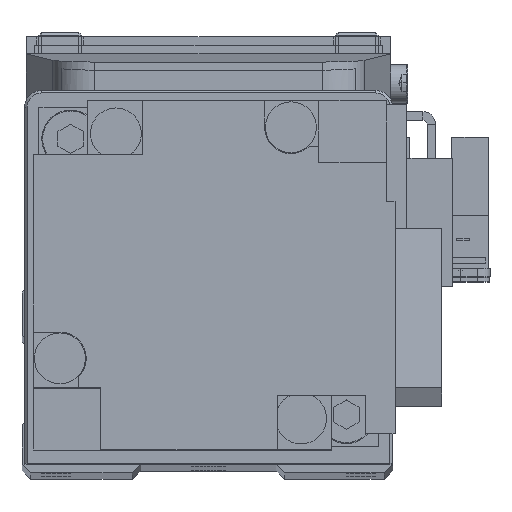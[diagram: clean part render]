
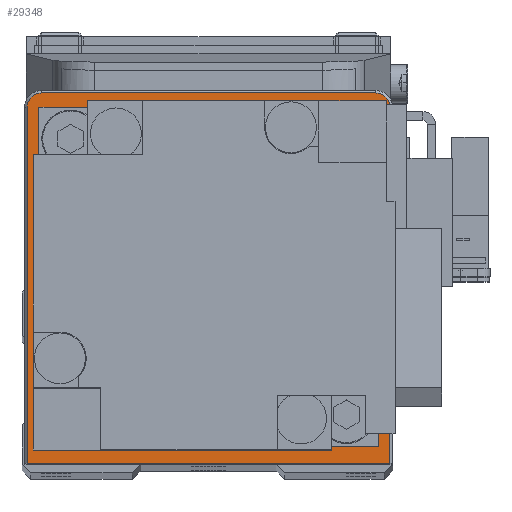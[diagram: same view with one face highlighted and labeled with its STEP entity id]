
A CAD part, top view. The second image highlights one B-rep face of the part: STEP entity #29348.
In plain terms, the highlighted planar face has unit normal (0, 0, 1).
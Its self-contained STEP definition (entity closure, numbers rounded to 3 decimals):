
#148 = VERTEX_POINT ( 'NONE', #9223 ) ;
#255 = VECTOR ( 'NONE', #3710, 1000. ) ;
#563 = CIRCLE ( 'NONE', #24793, 1.7 ) ;
#1321 = EDGE_LOOP ( 'NONE', ( #21762, #30137 ) ) ;
#1433 = CARTESIAN_POINT ( 'NONE',  ( 0., 0., 26.5 ) ) ;
#1461 = DIRECTION ( 'NONE',  ( 0., 1., 0. ) ) ;
#1993 = VERTEX_POINT ( 'NONE', #9020 ) ;
#2002 = EDGE_CURVE ( 'NONE', #1993, #32707, #19705, .T. ) ;
#2079 = VECTOR ( 'NONE', #32815, 1000. ) ;
#3516 = CARTESIAN_POINT ( 'NONE',  ( 0., 0., 26.5 ) ) ;
#3529 = LINE ( 'NONE', #11800, #255 ) ;
#3710 = DIRECTION ( 'NONE',  ( 0., -1., 0. ) ) ;
#4025 = FACE_BOUND ( 'NONE', #1321, .T. ) ;
#4201 = EDGE_CURVE ( 'NONE', #28987, #1993, #29430, .T. ) ;
#4208 = DIRECTION ( 'NONE',  ( 1., 0., 0. ) ) ;
#5451 = DIRECTION ( 'NONE',  ( 0., 0., 1. ) ) ;
#5535 = ORIENTED_EDGE ( 'NONE', *, *, #26526, .T. ) ;
#5963 = VECTOR ( 'NONE', #4208, 1000. ) ;
#6818 = CARTESIAN_POINT ( 'NONE',  ( 21.4, 20., 26.5 ) ) ;
#7863 = DIRECTION ( 'NONE',  ( 1., 0., 0. ) ) ;
#8377 = CARTESIAN_POINT ( 'NONE',  ( -19.7, 20., 26.5 ) ) ;
#8857 = DIRECTION ( 'NONE',  ( 0., 0., 1. ) ) ;
#9020 = CARTESIAN_POINT ( 'NONE',  ( 19.7, 21.7, 26.5 ) ) ;
#9223 = CARTESIAN_POINT ( 'NONE',  ( 10., 0., 26.5 ) ) ;
#9736 = CARTESIAN_POINT ( 'NONE',  ( 21.4, -22., 26.5 ) ) ;
#10444 = DIRECTION ( 'NONE',  ( 0., 0., 1. ) ) ;
#11703 = CARTESIAN_POINT ( 'NONE',  ( -10., 0., 26.5 ) ) ;
#11770 = EDGE_CURVE ( 'NONE', #14107, #148, #29761, .T. ) ;
#11800 = CARTESIAN_POINT ( 'NONE',  ( -21.4, -22., 26.5 ) ) ;
#12058 = EDGE_LOOP ( 'NONE', ( #22269, #19663, #24106, #23087, #12922, #5535 ) ) ;
#12922 = ORIENTED_EDGE ( 'NONE', *, *, #18949, .T. ) ;
#13119 = CARTESIAN_POINT ( 'NONE',  ( -21.4, -22., 26.5 ) ) ;
#13786 = CARTESIAN_POINT ( 'NONE',  ( -19.7, 21.7, 26.5 ) ) ;
#14107 = VERTEX_POINT ( 'NONE', #11703 ) ;
#16110 = EDGE_CURVE ( 'NONE', #148, #14107, #25585, .T. ) ;
#16460 = DIRECTION ( 'NONE',  ( 1., 0., 0. ) ) ;
#17127 = FACE_OUTER_BOUND ( 'NONE', #12058, .T. ) ;
#17293 = DIRECTION ( 'NONE',  ( 1., 0., 0. ) ) ;
#17484 = AXIS2_PLACEMENT_3D ( 'NONE', #3516, #32824, #17293 ) ;
#18210 = AXIS2_PLACEMENT_3D ( 'NONE', #1433, #8857, #27788 ) ;
#18949 = EDGE_CURVE ( 'NONE', #32707, #23461, #563, .T. ) ;
#19200 = DIRECTION ( 'NONE',  ( 0., 0., 1. ) ) ;
#19663 = ORIENTED_EDGE ( 'NONE', *, *, #28034, .T. ) ;
#19705 = LINE ( 'NONE', #21938, #2079 ) ;
#21762 = ORIENTED_EDGE ( 'NONE', *, *, #11770, .F. ) ;
#21799 = CARTESIAN_POINT ( 'NONE',  ( 19.7, 20., 26.5 ) ) ;
#21938 = CARTESIAN_POINT ( 'NONE',  ( -19.7, 21.7, 26.5 ) ) ;
#22269 = ORIENTED_EDGE ( 'NONE', *, *, #30652, .T. ) ;
#22312 = LINE ( 'NONE', #25060, #23996 ) ;
#23087 = ORIENTED_EDGE ( 'NONE', *, *, #2002, .T. ) ;
#23461 = VERTEX_POINT ( 'NONE', #28282 ) ;
#23996 = VECTOR ( 'NONE', #1461, 1000. ) ;
#24106 = ORIENTED_EDGE ( 'NONE', *, *, #4201, .T. ) ;
#24538 = LINE ( 'NONE', #27446, #5963 ) ;
#24793 = AXIS2_PLACEMENT_3D ( 'NONE', #8377, #19200, #16460 ) ;
#25060 = CARTESIAN_POINT ( 'NONE',  ( 21.4, 20., 26.5 ) ) ;
#25585 = CIRCLE ( 'NONE', #31655, 10. ) ;
#26526 = EDGE_CURVE ( 'NONE', #23461, #31321, #3529, .T. ) ;
#27446 = CARTESIAN_POINT ( 'NONE',  ( -21.7, -22., 26.5 ) ) ;
#27788 = DIRECTION ( 'NONE',  ( 1., 0., 0. ) ) ;
#28034 = EDGE_CURVE ( 'NONE', #30842, #28987, #22312, .T. ) ;
#28282 = CARTESIAN_POINT ( 'NONE',  ( -21.4, 20., 26.5 ) ) ;
#28987 = VERTEX_POINT ( 'NONE', #6818 ) ;
#29348 = ADVANCED_FACE ( 'NONE', ( #17127, #4025 ), #32475, .T. ) ;
#29430 = CIRCLE ( 'NONE', #32195, 1.7 ) ;
#29761 = CIRCLE ( 'NONE', #18210, 10. ) ;
#30137 = ORIENTED_EDGE ( 'NONE', *, *, #16110, .F. ) ;
#30652 = EDGE_CURVE ( 'NONE', #31321, #30842, #24538, .T. ) ;
#30842 = VERTEX_POINT ( 'NONE', #9736 ) ;
#31321 = VERTEX_POINT ( 'NONE', #13119 ) ;
#31655 = AXIS2_PLACEMENT_3D ( 'NONE', #34055, #10444, #7863 ) ;
#32195 = AXIS2_PLACEMENT_3D ( 'NONE', #21799, #5451, #32342 ) ;
#32342 = DIRECTION ( 'NONE',  ( 1., 0., 0. ) ) ;
#32475 = PLANE ( 'NONE',  #17484 ) ;
#32707 = VERTEX_POINT ( 'NONE', #13786 ) ;
#32815 = DIRECTION ( 'NONE',  ( -1., 0., 0. ) ) ;
#32824 = DIRECTION ( 'NONE',  ( 0., 0., 1. ) ) ;
#34055 = CARTESIAN_POINT ( 'NONE',  ( 0., 0., 26.5 ) ) ;
